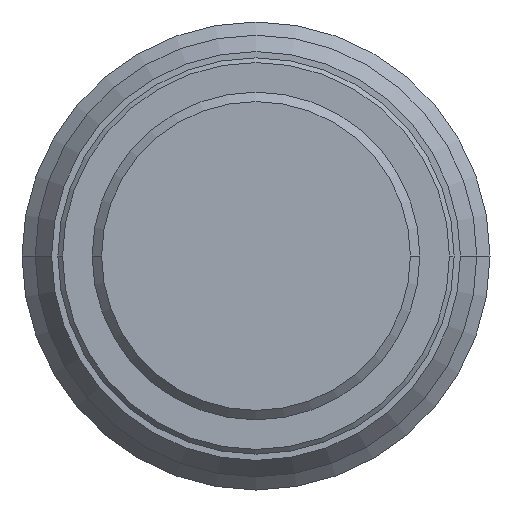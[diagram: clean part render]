
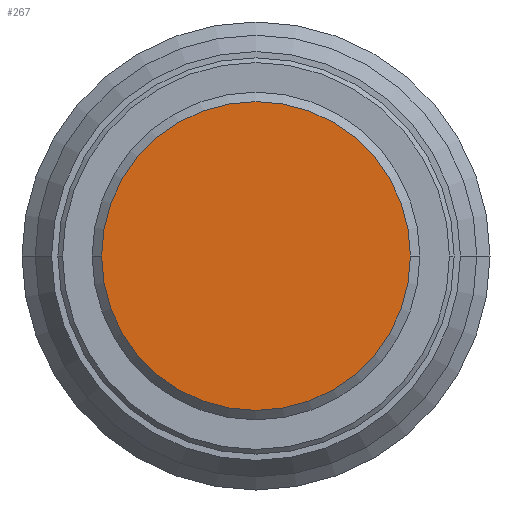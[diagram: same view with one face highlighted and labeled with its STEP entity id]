
A CAD part, front view. The second image highlights one B-rep face of the part: STEP entity #267.
In plain terms, the highlighted planar face has unit normal (0, -1, 0) as drawn and (1, 0, 0) by its records, which use the part's own axes.
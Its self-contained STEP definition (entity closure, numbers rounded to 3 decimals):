
#124=PLANE('',#1610);
#267=ADVANCED_FACE('',(#377),#124,.T.);
#377=FACE_OUTER_BOUND('',#470,.T.);
#470=EDGE_LOOP('',(#952,#953));
#952=ORIENTED_EDGE('',*,*,#1338,.T.);
#953=ORIENTED_EDGE('',*,*,#1235,.T.);
#1090=VERTEX_POINT('',#2254);
#1091=VERTEX_POINT('',#2255);
#1235=EDGE_CURVE('',#1090,#1091,#1411,.T.);
#1338=EDGE_CURVE('',#1091,#1090,#1450,.T.);
#1411=CIRCLE('',#1529,9.9);
#1450=CIRCLE('',#1609,9.9);
#1529=AXIS2_PLACEMENT_3D('',#2253,#1781,#1782);
#1609=AXIS2_PLACEMENT_3D('',#2531,#1985,#1986);
#1610=AXIS2_PLACEMENT_3D('',#2532,#1987,#1988);
#1781=DIRECTION('',(1.,0.,0.));
#1782=DIRECTION('',(0.,0.,-1.));
#1985=DIRECTION('',(1.,0.,0.));
#1986=DIRECTION('',(0.,0.,-1.));
#1987=DIRECTION('',(1.,0.,0.));
#1988=DIRECTION('',(0.,0.,1.));
#2253=CARTESIAN_POINT('',(58.,0.,0.));
#2254=CARTESIAN_POINT('',(58.,0.,-9.9));
#2255=CARTESIAN_POINT('',(58.,0.,9.9));
#2531=CARTESIAN_POINT('',(58.,0.,0.));
#2532=CARTESIAN_POINT('',(58.,0.,0.));
